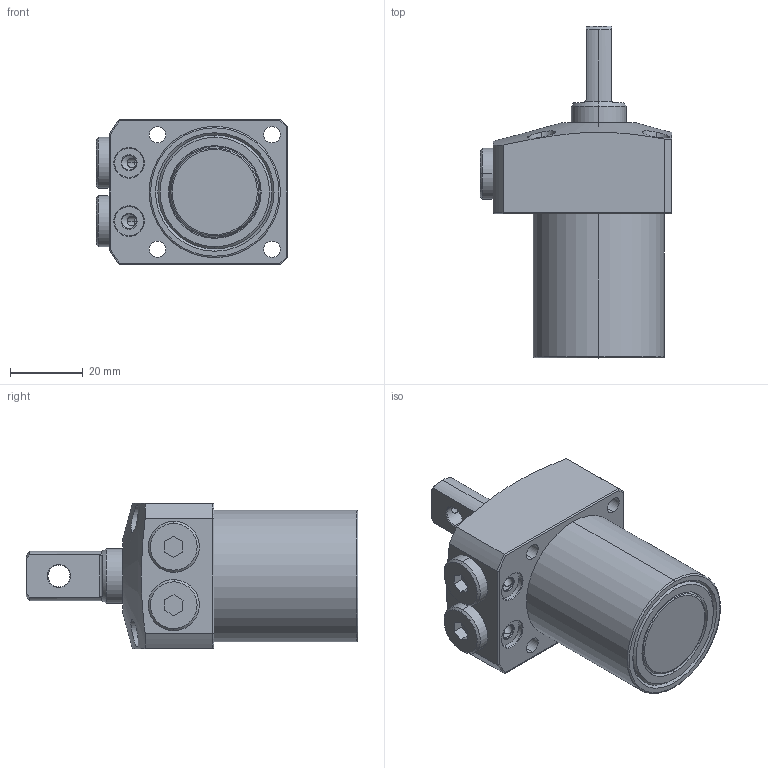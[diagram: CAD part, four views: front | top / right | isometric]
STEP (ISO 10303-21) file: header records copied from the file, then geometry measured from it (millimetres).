
FILE_DESCRIPTION (( 'STEP AP203' ), '1' );
FILE_NAME ('20250-CL-P.step', '2016-11-02T03:04:11', ( 'wxp' ), ( '' ), 'SwSTEP 2.0', 'SolidWorks 2011', '' );
FILE_SCHEMA (( 'CONFIG_CONTROL_DESIGN' ));
Length unit declared in the file: millimetre
Products named in the file (5): 20250-CL-P; 20250-C-P-4^20250-CL-P; 20250-C-P-3^20250-CL-P; 20250-C-P-2^20250-CL-P; 20250-C-P-1^20250-CL-P
Assembly tree (5 placements, depth 2):
  20250-CL-P
    20250-C-P-4^20250-CL-P  x2
    20250-C-P-2^20250-CL-P
    20250-C-P-3^20250-CL-P
    20250-C-P-1^20250-CL-P
Bounding box: 52.5 x 91 x 40 mm (x, y, z)
Volume: 86750.7 mm3; surface area: 19027.2 mm2
Topology: 5 solids, 5 shells, 171 faces, 397 edges, 249 vertices
Faces by surface type: cylinder 69, plane 51, cone 39, torus 12
Entity records: 5639 total; most frequent: CARTESIAN_POINT 1428, DIRECTION 808, ORIENTED_EDGE 738, EDGE_CURVE 369, AXIS2_PLACEMENT_3D 335, VERTEX_POINT 231, EDGE_LOOP 186, CIRCLE 169
